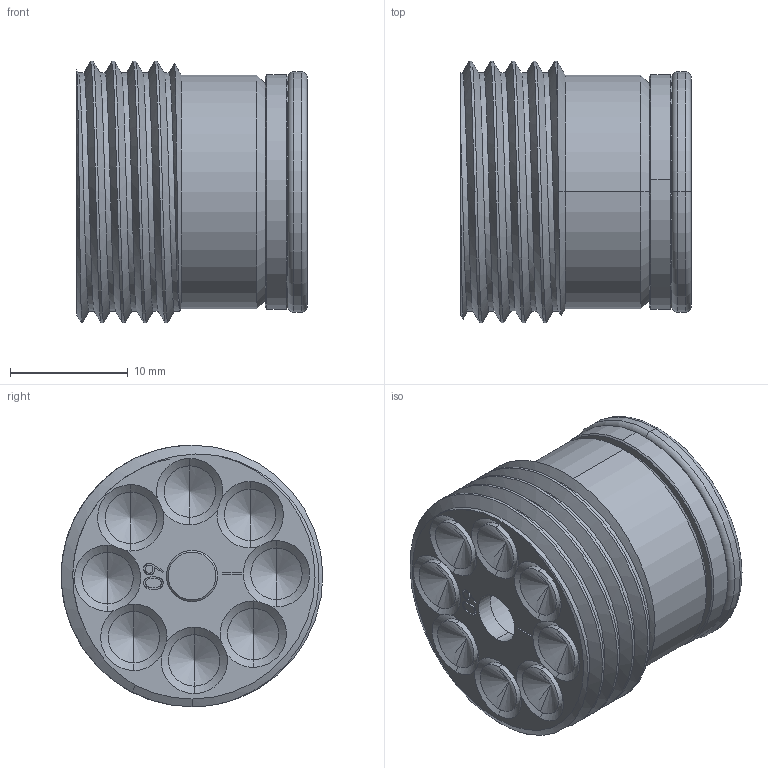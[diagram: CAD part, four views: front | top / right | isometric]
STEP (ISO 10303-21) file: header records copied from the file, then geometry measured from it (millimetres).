
FILE_DESCRIPTION (( 'STEP AP214' ), '1' );
FILE_NAME ('ICT-B-10-60-LG .STEP', '2026-02-12T16:35:10', ( '' ), ( '' ), 'SwSTEP 2.0', 'SolidWorks 2025', '' );
FILE_SCHEMA (( 'AUTOMOTIVE_DESIGN' ));
Length unit declared in the file: inch
Products named in the file (1): ICT-B-10-60-LG 
Bounding box: 19.56 x 22.22 x 22.23 mm (x, y, z)
Volume: 5011.9 mm3; surface area: 3737.7 mm2
Topology: 4 solids, 5 shells, 173 faces, 438 edges, 264 vertices
Faces by surface type: cone 58, cylinder 50, plane 28, bspline 21, torus 14, sphere 2
Entity records: 8155 total; most frequent: CARTESIAN_POINT 4140, ORIENTED_EDGE 834, DIRECTION 825, EDGE_CURVE 417, AXIS2_PLACEMENT_3D 338, VERTEX_POINT 261, EDGE_LOOP 188, CIRCLE 185
